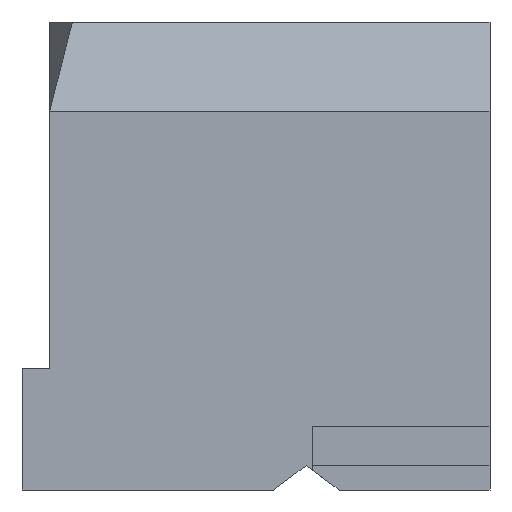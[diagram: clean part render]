
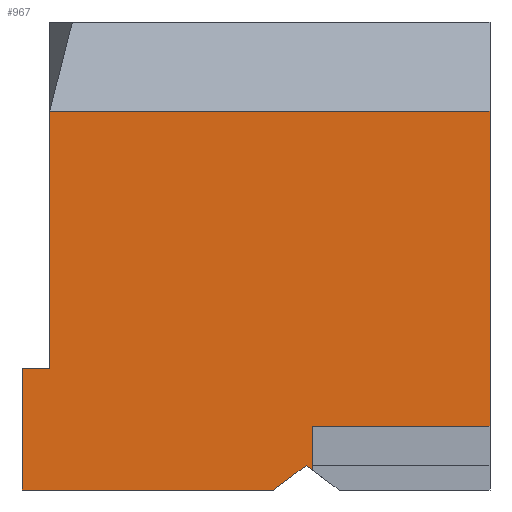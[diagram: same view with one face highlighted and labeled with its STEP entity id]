
A CAD part, front view. The second image highlights one B-rep face of the part: STEP entity #967.
In plain terms, the highlighted planar face has unit normal (0, -1, 0).
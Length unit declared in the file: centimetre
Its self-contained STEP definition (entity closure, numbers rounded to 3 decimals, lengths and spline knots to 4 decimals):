
#85 = VECTOR ( 'NONE', #97, 100. ) ;
#97 = DIRECTION ( 'NONE',  ( 0., 0., 1. ) ) ;
#103 = CARTESIAN_POINT ( 'NONE',  ( 607.3049, 0., 52.162 ) ) ;
#116 = CARTESIAN_POINT ( 'NONE',  ( 58.9772, 0., 259.2961 ) ) ;
#136 = LINE ( 'NONE', #436, #413 ) ;
#142 = LINE ( 'NONE', #441, #202 ) ;
#160 = DIRECTION ( 'NONE',  ( 1., 0., 0. ) ) ;
#171 = VERTEX_POINT ( 'NONE', #417 ) ;
#177 = CARTESIAN_POINT ( 'NONE',  ( 58.9772, 0., 809.4702 ) ) ;
#178 = LINE ( 'NONE', #103, #509 ) ;
#180 = CARTESIAN_POINT ( 'NONE',  ( 0., 0., 0. ) ) ;
#183 = PLANE ( 'NONE',  #342 ) ;
#202 = VECTOR ( 'NONE', #993, 100. ) ;
#212 = VERTEX_POINT ( 'NONE', #116 ) ;
#230 = CARTESIAN_POINT ( 'NONE',  ( 0., 0., 1000. ) ) ;
#231 = VERTEX_POINT ( 'NONE', #811 ) ;
#234 = LINE ( 'NONE', #400, #85 ) ;
#235 = VECTOR ( 'NONE', #672, 100. ) ;
#240 = LINE ( 'NONE', #318, #592 ) ;
#252 = LINE ( 'NONE', #474, #735 ) ;
#259 = EDGE_CURVE ( 'NONE', #984, #447, #178, .T. ) ;
#299 = EDGE_CURVE ( 'NONE', #788, #984, #308, .T. ) ;
#308 = LINE ( 'NONE', #996, #992 ) ;
#315 = ORIENTED_EDGE ( 'NONE', *, *, #913, .F. ) ;
#318 = CARTESIAN_POINT ( 'NONE',  ( 0., 0., 809.4702 ) ) ;
#327 = DIRECTION ( 'NONE',  ( -1., 0., 0. ) ) ;
#330 = DIRECTION ( 'NONE',  ( -0.803, 0., 0.596 ) ) ;
#337 = EDGE_CURVE ( 'NONE', #439, #953, #240, .T. ) ;
#342 = AXIS2_PLACEMENT_3D ( 'NONE', #230, #850, #482 ) ;
#365 = EDGE_LOOP ( 'NONE', ( #459, #944, #933, #641, #614, #604, #681, #315, #381, #783 ) ) ;
#380 = EDGE_CURVE ( 'NONE', #231, #212, #252, .T. ) ;
#381 = ORIENTED_EDGE ( 'NONE', *, *, #380, .F. ) ;
#400 = CARTESIAN_POINT ( 'NONE',  ( 58.9772, 0., 259.2961 ) ) ;
#403 = VERTEX_POINT ( 'NONE', #947 ) ;
#413 = VECTOR ( 'NONE', #756, 100. ) ;
#417 = CARTESIAN_POINT ( 'NONE',  ( 0., 0., 0. ) ) ;
#436 = CARTESIAN_POINT ( 'NONE',  ( 0., 0., 1000. ) ) ;
#439 = VERTEX_POINT ( 'NONE', #487 ) ;
#441 = CARTESIAN_POINT ( 'NONE',  ( 1000., 0., 1000. ) ) ;
#447 = VERTEX_POINT ( 'NONE', #713 ) ;
#457 = CARTESIAN_POINT ( 'NONE',  ( 1000., 0., 136.4681 ) ) ;
#459 = ORIENTED_EDGE ( 'NONE', *, *, #472, .T. ) ;
#472 = EDGE_CURVE ( 'NONE', #171, #403, #473, .T. ) ;
#473 = LINE ( 'NONE', #180, #589 ) ;
#474 = CARTESIAN_POINT ( 'NONE',  ( 58.9772, 0., 259.2961 ) ) ;
#482 = DIRECTION ( 'NONE',  ( 0., 0., 1. ) ) ;
#487 = CARTESIAN_POINT ( 'NONE',  ( 1000., 0., 809.4702 ) ) ;
#493 = LINE ( 'NONE', #585, #628 ) ;
#500 = EDGE_CURVE ( 'NONE', #231, #171, #136, .T. ) ;
#509 = VECTOR ( 'NONE', #330, 100. ) ;
#518 = EDGE_CURVE ( 'NONE', #439, #925, #142, .T. ) ;
#585 = CARTESIAN_POINT ( 'NONE',  ( 620.3073, 0., 136.4681 ) ) ;
#589 = VECTOR ( 'NONE', #160, 100. ) ;
#592 = VECTOR ( 'NONE', #327, 100. ) ;
#604 = ORIENTED_EDGE ( 'NONE', *, *, #518, .F. ) ;
#614 = ORIENTED_EDGE ( 'NONE', *, *, #659, .T. ) ;
#615 = LINE ( 'NONE', #918, #235 ) ;
#628 = VECTOR ( 'NONE', #808, 100. ) ;
#641 = ORIENTED_EDGE ( 'NONE', *, *, #299, .F. ) ;
#659 = EDGE_CURVE ( 'NONE', #788, #925, #493, .T. ) ;
#672 = DIRECTION ( 'NONE',  ( -0.803, 0., -0.596 ) ) ;
#681 = ORIENTED_EDGE ( 'NONE', *, *, #337, .T. ) ;
#711 = EDGE_CURVE ( 'NONE', #447, #403, #615, .T. ) ;
#713 = CARTESIAN_POINT ( 'NONE',  ( 607.3049, 0., 52.162 ) ) ;
#735 = VECTOR ( 'NONE', #790, 100. ) ;
#756 = DIRECTION ( 'NONE',  ( 0., 0., -1. ) ) ;
#783 = ORIENTED_EDGE ( 'NONE', *, *, #500, .T. ) ;
#788 = VERTEX_POINT ( 'NONE', #840 ) ;
#790 = DIRECTION ( 'NONE',  ( 1., 0., 0. ) ) ;
#792 = FACE_OUTER_BOUND ( 'NONE', #365, .T. ) ;
#808 = DIRECTION ( 'NONE',  ( 1., 0., 0. ) ) ;
#811 = CARTESIAN_POINT ( 'NONE',  ( 0., 0., 259.2961 ) ) ;
#840 = CARTESIAN_POINT ( 'NONE',  ( 620.3073, 0., 136.4681 ) ) ;
#850 = DIRECTION ( 'NONE',  ( 0., 1., 0. ) ) ;
#911 = DIRECTION ( 'NONE',  ( 0., 0., -1. ) ) ;
#913 = EDGE_CURVE ( 'NONE', #212, #953, #234, .T. ) ;
#918 = CARTESIAN_POINT ( 'NONE',  ( 537.0509, 0., 0. ) ) ;
#925 = VERTEX_POINT ( 'NONE', #457 ) ;
#933 = ORIENTED_EDGE ( 'NONE', *, *, #259, .F. ) ;
#944 = ORIENTED_EDGE ( 'NONE', *, *, #711, .F. ) ;
#947 = CARTESIAN_POINT ( 'NONE',  ( 537.0509, 0., 0. ) ) ;
#953 = VERTEX_POINT ( 'NONE', #177 ) ;
#965 = CARTESIAN_POINT ( 'NONE',  ( 620.3073, 0., 42.508 ) ) ;
#967 = ADVANCED_FACE ( 'NONE', ( #792 ), #183, .F. ) ;
#984 = VERTEX_POINT ( 'NONE', #965 ) ;
#992 = VECTOR ( 'NONE', #911, 100. ) ;
#993 = DIRECTION ( 'NONE',  ( 0., 0., -1. ) ) ;
#996 = CARTESIAN_POINT ( 'NONE',  ( 620.3073, 0., 0. ) ) ;
